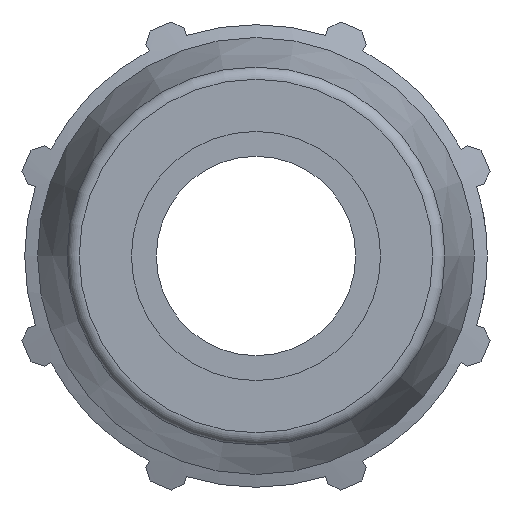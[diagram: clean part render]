
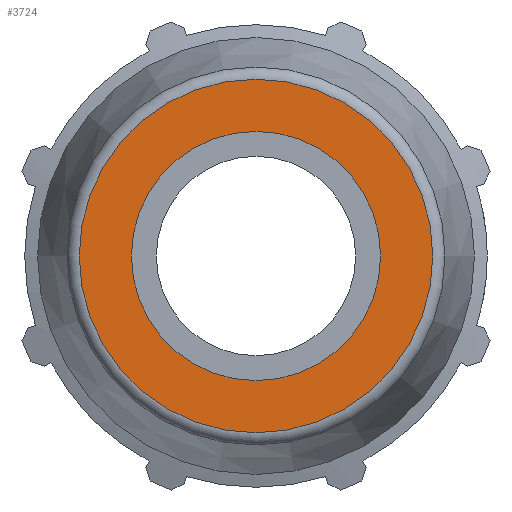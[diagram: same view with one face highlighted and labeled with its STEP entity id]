
A CAD part, left-side view. The second image highlights one B-rep face of the part: STEP entity #3724.
In plain terms, the highlighted planar face has unit normal (-1, 0, 0).
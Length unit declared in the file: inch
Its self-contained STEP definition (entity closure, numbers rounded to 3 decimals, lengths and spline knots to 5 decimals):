
#135=FACE_BOUND('',#500,.T.);
#183=PLANE('',#3985);
#305=FACE_OUTER_BOUND('',#499,.T.);
#499=EDGE_LOOP('',(#2640,#2641));
#500=EDGE_LOOP('',(#2642,#2643));
#759=CIRCLE('',#3982,1.3436);
#760=CIRCLE('',#3983,1.3436);
#762=CIRCLE('',#3986,0.94685);
#763=CIRCLE('',#3987,0.94685);
#1537=VERTEX_POINT('',#5663);
#1538=VERTEX_POINT('',#5665);
#1539=VERTEX_POINT('',#5670);
#1540=VERTEX_POINT('',#5671);
#1967=EDGE_CURVE('',#1537,#1538,#759,.T.);
#1968=EDGE_CURVE('',#1538,#1537,#760,.T.);
#1970=EDGE_CURVE('',#1539,#1540,#762,.T.);
#1971=EDGE_CURVE('',#1540,#1539,#763,.T.);
#2640=ORIENTED_EDGE('',*,*,#1968,.F.);
#2641=ORIENTED_EDGE('',*,*,#1967,.F.);
#2642=ORIENTED_EDGE('',*,*,#1970,.T.);
#2643=ORIENTED_EDGE('',*,*,#1971,.T.);
#3724=ADVANCED_FACE('',(#305,#135),#183,.T.);
#3982=AXIS2_PLACEMENT_3D('',#5666,#4550,#4551);
#3983=AXIS2_PLACEMENT_3D('',#5667,#4552,#4553);
#3985=AXIS2_PLACEMENT_3D('',#5669,#4556,#4557);
#3986=AXIS2_PLACEMENT_3D('',#5672,#4558,#4559);
#3987=AXIS2_PLACEMENT_3D('',#5673,#4560,#4561);
#4550=DIRECTION('center_axis',(1.,0.,0.));
#4551=DIRECTION('ref_axis',(0.,-1.,0.));
#4552=DIRECTION('center_axis',(1.,0.,0.));
#4553=DIRECTION('ref_axis',(0.,-1.,0.));
#4556=DIRECTION('center_axis',(-1.,0.,0.));
#4557=DIRECTION('ref_axis',(0.,0.,1.));
#4558=DIRECTION('center_axis',(1.,0.,0.));
#4559=DIRECTION('ref_axis',(0.,0.,-1.));
#4560=DIRECTION('center_axis',(1.,0.,0.));
#4561=DIRECTION('ref_axis',(0.,0.,-1.));
#5663=CARTESIAN_POINT('',(-3.955,0.,1.3436));
#5665=CARTESIAN_POINT('',(-3.955,1.3436,0.));
#5666=CARTESIAN_POINT('Origin',(-3.955,0.,0.));
#5667=CARTESIAN_POINT('Origin',(-3.955,0.,0.));
#5669=CARTESIAN_POINT('Origin',(-3.955,1.42028,0.));
#5670=CARTESIAN_POINT('',(-3.955,0.94685,0.));
#5671=CARTESIAN_POINT('',(-3.955,-0.94685,0.));
#5672=CARTESIAN_POINT('Origin',(-3.955,0.,0.));
#5673=CARTESIAN_POINT('Origin',(-3.955,0.,0.));
